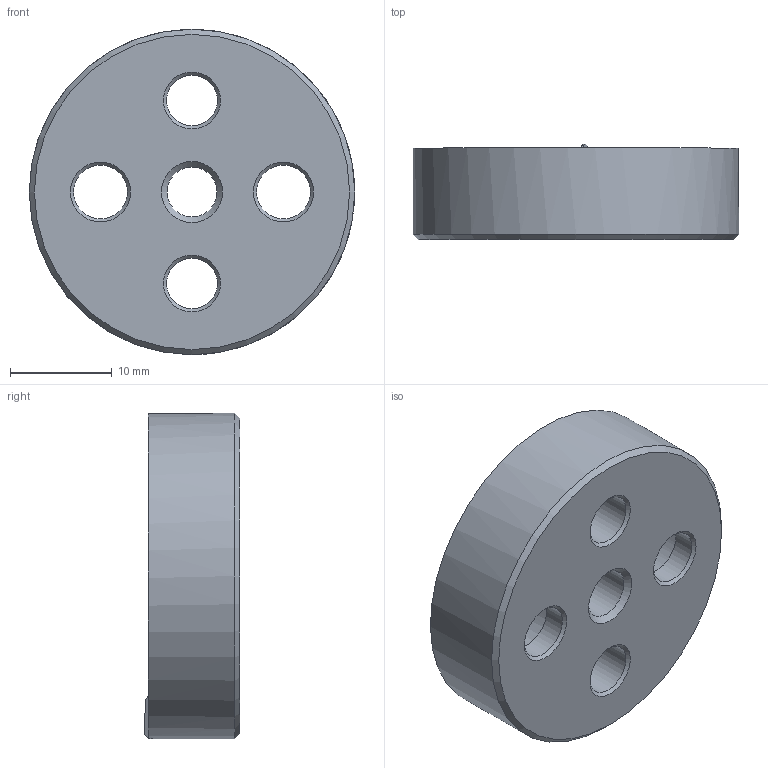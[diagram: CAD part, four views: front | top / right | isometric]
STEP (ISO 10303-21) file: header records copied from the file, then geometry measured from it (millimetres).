
FILE_DESCRIPTION( ( 'STEP AP203' ), '1' );
FILE_NAME( 'C:/Temp/Ganter_Step_05_03_2020/data/3_2/gn187_4/gn187_4_st/Serrated locking plate GN 187.4-32-60-A-ST.stp', '2020-03-13T05:25:33', ( 'License CC BY-ND 4.0' ), ( 'CADENAS' ), ' ', 'PARTsolutions', ' ' );
FILE_SCHEMA( ( 'CONFIG_CONTROL_DESIGN' ) );
Length unit declared in the file: millimetre
Products named in the file (1): _Serrated locking plate GN 187.4-32-60-A-ST
Bounding box: 32 x 9.43 x 32 mm (x, y, z)
Volume: 5417.6 mm3; surface area: 3121.7 mm2
Topology: 1 solids, 1 shells, 36 faces, 94 edges, 60 vertices
Faces by surface type: cone 15, cylinder 12, plane 9
Full cylindrical faces by diameter (mm): 4.917 x1, 5 x2, 5.3 x2, 9.4 x2, 32 x1
Entity records: 1152 total; most frequent: CARTESIAN_POINT 286, DIRECTION 178, ORIENTED_EDGE 146, AXIS2_PLACEMENT_3D 84, EDGE_CURVE 73, EDGE_LOOP 63, VERTEX_POINT 56, FACE_OUTER_BOUND 44
